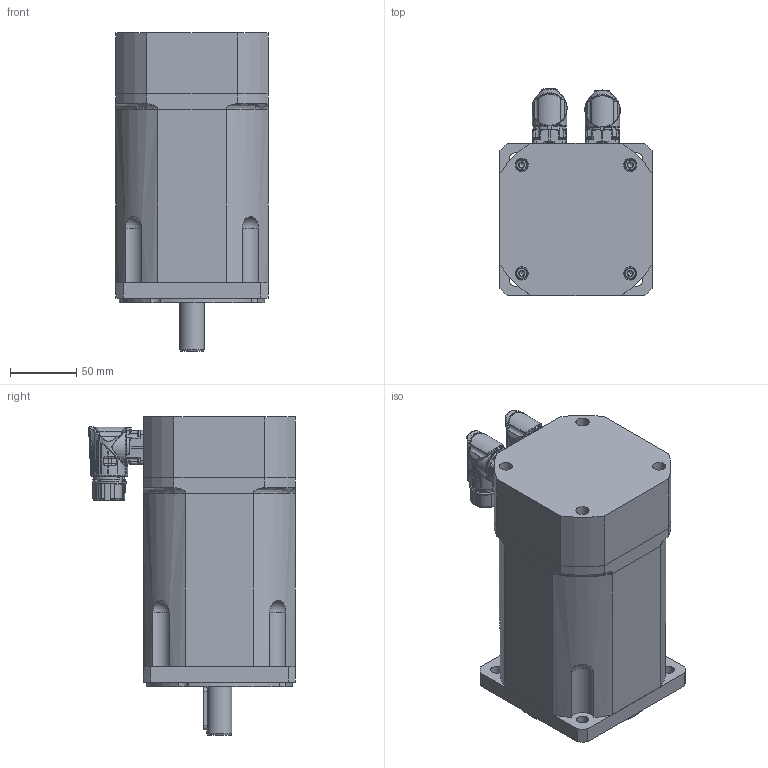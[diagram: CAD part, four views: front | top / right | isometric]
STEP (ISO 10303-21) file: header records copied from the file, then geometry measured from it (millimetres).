
FILE_DESCRIPTION(/* description */ (''),/* implementation_level */ '2;1');
FILE_NAME(/* name */ 'C:\Users\Public\Documents\Autodesk\Inventor LT 2014\Workspace\TG4\DSM5_4x_xxx7\DSM5_42_xxx7.stp',/* time_stamp */ '2016-03-14T13:46:22+01:00',/* author */ ('motion'),/* organization */ (''),/* preprocessor_version */ 'ST-DEVELOPER v15.2',/* originating_system */ 'Autodesk Inventor LT ',/* authorisation */ '');
FILE_SCHEMA (('AUTOMOTIVE_DESIGN { 1 0 10303 214 3 1 1 }'));
Products named in the file (1): DSM5_42_xxx7
Bounding box: 115 x 156.43 x 240.5 mm (x, y, z)
Volume: 2475839.3 mm3; surface area: 219950.2 mm2
Topology: 15 solids, 17 shells, 3085 faces, 7790 edges, 4689 vertices
Faces by surface type: cylinder 883, bspline 854, plane 596, torus 382, cone 250, sphere 120
Full cylindrical faces by diameter (mm): 1.2 x17, 2 x6, 2.15 x6, 2.224 x8, 2.5 x8, 2.7 x8, 3 x1, 4.5 x2, 4.917 x1, 5 x8, 5.5 x3, 5.9 x2, 6 x4, 8.5 x4, 9 x4, 10 x8, 11 x4, 15.2 x1, 19 x1, 19.1 x1, 21.6 x1, 22.5 x1, 23 x2, 24.4 x1, 25 x1, 42 x1, 52 x2, 90 x1
Entity records: 190329 total; most frequent: CARTESIAN_POINT 120176, ORIENTED_EDGE 14668, DIRECTION 12871, EDGE_CURVE 7334, AXIS2_PLACEMENT_3D 5525, VERTEX_POINT 4596, EDGE_LOOP 3476, ADVANCED_FACE 3081
